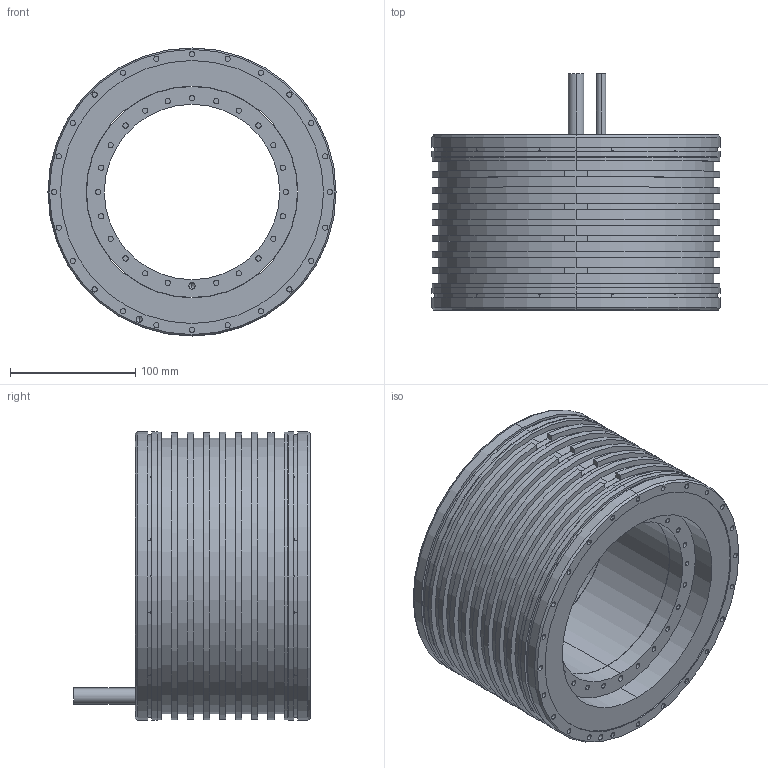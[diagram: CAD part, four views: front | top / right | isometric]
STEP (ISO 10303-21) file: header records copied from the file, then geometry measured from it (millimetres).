
FILE_DESCRIPTION (( 'STEP AP203' ), '1' );
FILE_NAME ('TM-2-4A.STEP', '2020-10-20T05:45:32', ( '' ), ( '' ), 'SwSTEP 2.0', 'SolidWorks 2015', '' );
FILE_SCHEMA (( 'CONFIG_CONTROL_DESIGN' ));
Length unit declared in the file: millimetre
Products named in the file (3): TM-2-4X_rotor_TM-2-4A_rotor; TM-2-4A; TM-2-4X_stator_TM-2-4A_stator
Assembly tree (2 placements, depth 2):
  TM-2-4A
    TM-2-4X_stator_TM-2-4A_stator
    TM-2-4X_rotor_TM-2-4A_rotor
Bounding box: 230 x 189 x 230 mm (x, y, z)
Volume: 3086071.9 mm3; surface area: 401025.5 mm2
Topology: 2 solids, 2 shells, 418 faces, 876 edges, 564 vertices
Faces by surface type: cylinder 257, plane 145, cone 16
Entity records: 11611 total; most frequent: DIRECTION 2232, CARTESIAN_POINT 1855, ORIENTED_EDGE 1736, AXIS2_PLACEMENT_3D 941, EDGE_CURVE 868, VERTEX_POINT 564, EDGE_LOOP 532, CIRCLE 518
